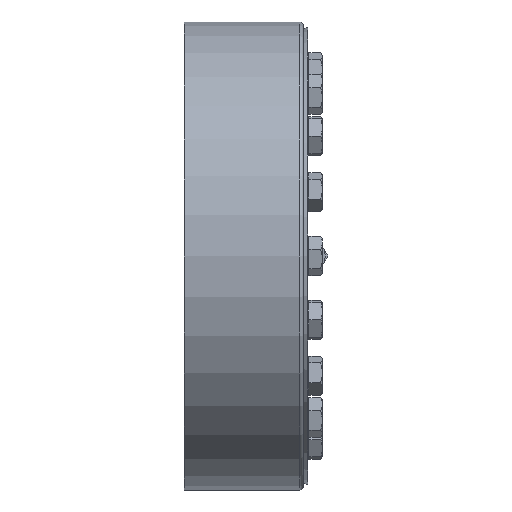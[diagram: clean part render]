
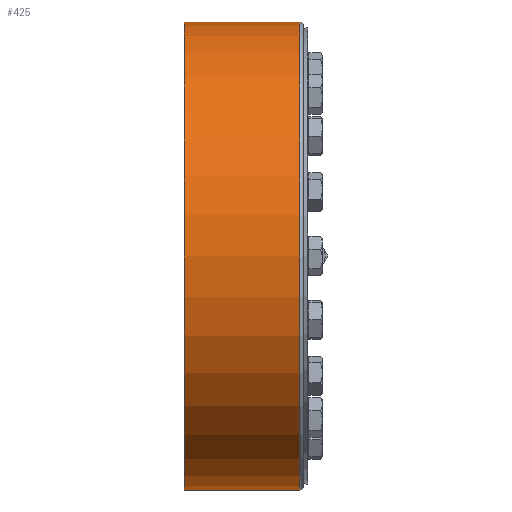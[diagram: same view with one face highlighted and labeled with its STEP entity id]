
A CAD part, left-side view. The second image highlights one B-rep face of the part: STEP entity #425.
In plain terms, the highlighted cylindrical face has radius 202.5 mm (diameter 405 mm), a full revolution.
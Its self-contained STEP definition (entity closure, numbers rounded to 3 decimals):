
#425 = ADVANCED_FACE( '', ( #672, #673 ), #674, .T. );
#672 = FACE_OUTER_BOUND( '', #868, .T. );
#673 = FACE_OUTER_BOUND( '', #869, .T. );
#674 = CYLINDRICAL_SURFACE( '', #870, 202.5 );
#868 = EDGE_LOOP( '', ( #1098 ) );
#869 = EDGE_LOOP( '', ( #1099 ) );
#870 = AXIS2_PLACEMENT_3D( '', #1100, #1101, #1102 );
#1098 = ORIENTED_EDGE( '', *, *, #1517, .T. );
#1099 = ORIENTED_EDGE( '', *, *, #1518, .T. );
#1100 = CARTESIAN_POINT( '', ( 0., -60., 0. ) );
#1101 = DIRECTION( '', ( 0., 1., 0. ) );
#1102 = DIRECTION( '', ( 0., 0., -1. ) );
#1517 = EDGE_CURVE( '', #1680, #1680, #1681, .F. );
#1518 = EDGE_CURVE( '', #1682, #1682, #1683, .T. );
#1680 = VERTEX_POINT( '', #1815 );
#1681 = CIRCLE( '', #1816, 202.5 );
#1682 = VERTEX_POINT( '', #1817 );
#1683 = CIRCLE( '', #1818, 202.5 );
#1815 = CARTESIAN_POINT( '', ( 0., 7., -202.5 ) );
#1816 = AXIS2_PLACEMENT_3D( '', #2002, #2003, #2004 );
#1817 = CARTESIAN_POINT( '', ( 0., 107., -202.5 ) );
#1818 = AXIS2_PLACEMENT_3D( '', #2005, #2006, #2007 );
#2002 = CARTESIAN_POINT( '', ( 0., 7., 0. ) );
#2003 = DIRECTION( '', ( 0., -1., 0. ) );
#2004 = DIRECTION( '', ( 0., 0., -1. ) );
#2005 = CARTESIAN_POINT( '', ( 0., 107., 0. ) );
#2006 = DIRECTION( '', ( 0., -1., 0. ) );
#2007 = DIRECTION( '', ( 0., 0., -1. ) );
